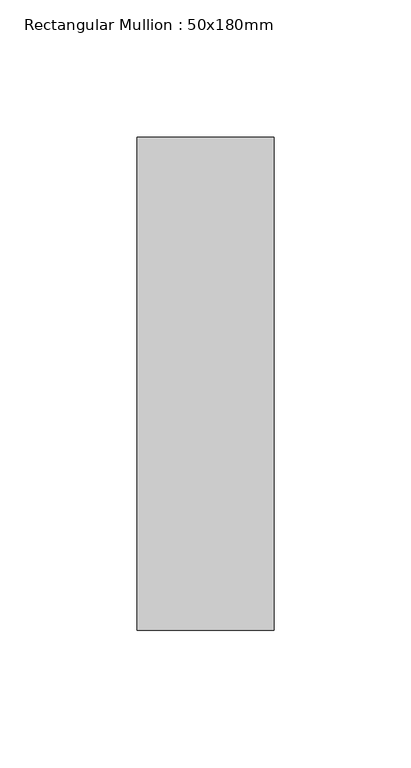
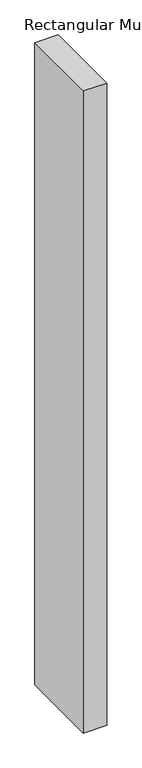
"""IFC4 building model written with IfcOpenShell, lengths in millimetres: member geometry, Rectangular Mullion : 50x180mm."""

from ifc_helpers import new_model, si_unit, frame, origin, place, context, project, spatial, polyline, outline, extrude, source, transform, mapped, element, save


def rectangular_mullion_50x180mm_ee9895d7(model_context):
    return source(origin(), model_context, "Body", "SweptSolid", [
        extrude(outline(polyline([(0.0, 90.0), (0.0, -90.0), (-50.0, -90.0), (-50.0, 90.0), (0.0, 90.0)])), frame((0.0, 0.0, -1457.8124999), z_axis=(0.0, 0.0, 1.0), x_axis=(1.0, 0.0, 0.0)), (0.0, 0.0, 1.0), 1457.8124999),
    ])


if __name__ == "__main__":
    model = new_model("IFC4")
    model_context = context("Model", 3, world=origin())
    ifc_project = project(units=[si_unit("LENGTHUNIT", "METRE", prefix="MILLI")], contexts=[model_context])
    site = spatial("IfcSite", under=ifc_project)
    building = spatial("IfcBuilding", under=site)
    placement = place(None, origin())
    rectangular_mullion_50x180mm_shape = rectangular_mullion_50x180mm_ee9895d7(model_context)
    element("IfcMember", 1, ObjectType="Rectangular Mullion : 50x180mm", at=placement, inside=building, context=model_context, shape_type="MappedRepresentation", body=[
        mapped(rectangular_mullion_50x180mm_shape, transform((0.0, 0.0, 0.0), x_axis=(1.0, 0.0, 0.0), y_axis=(0.0, 1.0, 0.0), z_axis=(0.0, 0.0, 1.0))),
    ])
    save(model, "model.ifc")
